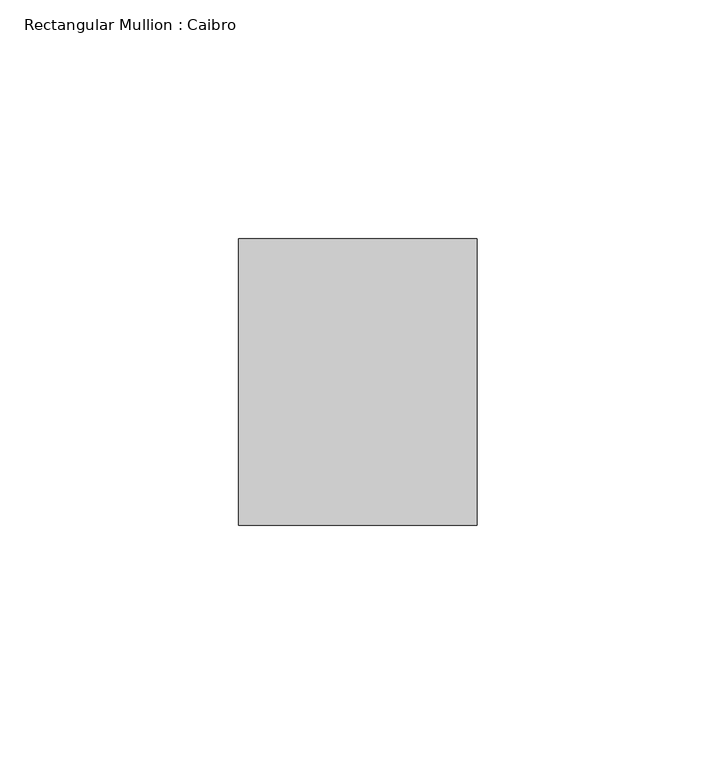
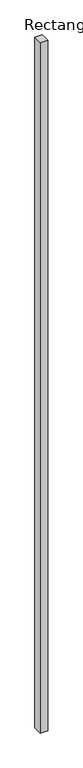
"""IFC4 building model written with IfcOpenShell, lengths in millimetres: member geometry, Rectangular Mullion : Caibro."""

import ifcopenshell
import ifcopenshell.guid

model = None  # the IFC model being written
_history = None  # IfcOwnerHistory: only IFC2X3 demands one
_inside = {}  # id of a spatial element -> (the spatial element, [elements in it])
_under = {}  # id of a project, library or spatial element -> (it, [spatial elements below it])
_declared = {}  # id of a project -> (the project, [libraries it declares])
_typed = {}  # id of a type object -> (the type object, [elements of that type])
_made_of = {}  # id of a material, layer set ... -> (it, [elements and type objects made of it])


def new_model(schema):
    """Start an empty IFC model of exactly this schema.

    Asked for "IFC4X3", IfcOpenShell would pick the latest addendum, in which some entities
    have other attributes; the version numbers below select the first issue.
    IFC2X3 requires an IfcOwnerHistory on every rooted entity: one is made here for all.
    """
    global model, _history
    if schema == "IFC4X3":
        model = ifcopenshell.file(schema_version=(4, 3, 0, 0))
    else:
        model = ifcopenshell.file(schema=schema)
    _inside.clear()
    _under.clear()
    _declared.clear()
    _typed.clear()
    _made_of.clear()
    _history = None
    if model.schema == "IFC2X3":
        org = make("IfcOrganization", Name="unknown")
        user = make(
            "IfcPersonAndOrganization",
            ThePerson=make("IfcPerson", FamilyName="unknown"),
            TheOrganization=org,
        )
        app = make(
            "IfcApplication",
            ApplicationDeveloper=org,
            Version="unknown",
            ApplicationFullName="unknown",
            ApplicationIdentifier="unknown",
        )
        _history = make(
            "IfcOwnerHistory",
            OwningUser=user,
            OwningApplication=app,
            ChangeAction="ADDED",
            CreationDate=0,
        )
    return model


def make(cls, **values):
    """One entity of the class cls with the attributes given. An attribute that is None is left unset."""
    return model.create_entity(
        cls, **{name: value for name, value in values.items() if value is not None}
    )


def rooted(cls, **values):
    """An entity with a GlobalId (a new one), such as an element, a storey or a relation."""
    return make(cls, GlobalId=ifcopenshell.guid.new(), OwnerHistory=_history, **values)


def si_unit(unit_type, name, prefix=None):
    """IfcSIUnit, for example si_unit("LENGTHUNIT", "METRE", prefix="MILLI")."""
    return make("IfcSIUnit", UnitType=unit_type, Prefix=prefix, Name=name)


def assignment(units):
    """IfcUnitAssignment: the units of a project."""
    return None if units is None else make("IfcUnitAssignment", Units=units)


def point(xyz):
    """IfcCartesianPoint."""
    return None if xyz is None else make("IfcCartesianPoint", Coordinates=xyz)


def direction(xyz):
    """IfcDirection."""
    return None if xyz is None else make("IfcDirection", DirectionRatios=xyz)


def frame(location, z_axis=None, x_axis=None):
    """IfcAxis2Placement3D, a coordinate frame: its origin and axes. An axis left out is left unset."""
    return make(
        "IfcAxis2Placement3D",
        Location=point(location),
        Axis=direction(z_axis),
        RefDirection=direction(x_axis),
    )


def origin():
    """The frame at (0, 0, 0) with its axes left unset."""
    return frame((0.0, 0.0, 0.0))


def place(relative_to, where):
    """IfcLocalPlacement: puts the frame where relative to a parent placement (None: the world)."""
    return make(
        "IfcLocalPlacement", PlacementRelTo=relative_to, RelativePlacement=where
    )


def context(
    kind, dimensions, precision=None, world=None, true_north=None, identifier=None
):
    """IfcGeometricRepresentationContext, for example the 3D "Model" context."""
    return make(
        "IfcGeometricRepresentationContext",
        ContextIdentifier=identifier,
        ContextType=kind,
        CoordinateSpaceDimension=dimensions,
        Precision=precision,
        WorldCoordinateSystem=world,
        TrueNorth=true_north,
    )


def project(units=None, contexts=None):
    """IfcProject with its units and contexts."""
    return rooted(
        "IfcProject",
        Name="project",
        RepresentationContexts=contexts,
        UnitsInContext=assignment(units),
    )


def spatial(cls, under=None, at=None, **own):
    """A site, building, storey or space (cls), placed at a placement, below another one or the project."""
    s = rooted(cls, ObjectPlacement=at, **own)
    if under is not None:
        _under.setdefault(under.id(), (under, []))[1].append(s)
    return s


def polyline(points):
    """IfcPolyline through the points."""
    return make("IfcPolyline", Points=[point(p) for p in points])


def outline(outer, holes=None, kind="AREA"):
    """IfcArbitraryClosedProfileDef: a profile drawn as a closed curve; with holes, ...WithVoids."""
    if holes is None:
        return make("IfcArbitraryClosedProfileDef", ProfileType=kind, OuterCurve=outer)
    return make(
        "IfcArbitraryProfileDefWithVoids",
        ProfileType=kind,
        OuterCurve=outer,
        InnerCurves=holes,
    )


def extrude(swept, where, along, depth):
    """IfcExtrudedAreaSolid: the profile swept, set in the frame where, extruded along a direction by depth."""
    return make(
        "IfcExtrudedAreaSolid",
        SweptArea=swept,
        Position=where,
        ExtrudedDirection=direction(along),
        Depth=depth,
    )


def shape(context_of_items, identifier, shape_type, items):
    """IfcShapeRepresentation: the items that make up one representation, for example the "Body"."""
    return make(
        "IfcShapeRepresentation",
        ContextOfItems=context_of_items,
        RepresentationIdentifier=identifier,
        RepresentationType=shape_type,
        Items=items,
    )


def source(mapping_origin, context_of_items, identifier, shape_type, items):
    """IfcRepresentationMap: a shape defined once, which mapped items show again and again."""
    return make(
        "IfcRepresentationMap",
        MappingOrigin=mapping_origin,
        MappedRepresentation=shape(context_of_items, identifier, shape_type, items),
    )


def transform(
    local_origin,
    x_axis=None,
    y_axis=None,
    z_axis=None,
    scale=None,
    scale2=None,
    scale3=None,
    uniform=True,
):
    """IfcCartesianTransformationOperator3D, or its non-uniform kind. x_axis, y_axis, z_axis: its Axis1, 2, 3."""
    if uniform:
        return make(
            "IfcCartesianTransformationOperator3D",
            Axis1=direction(x_axis),
            Axis2=direction(y_axis),
            LocalOrigin=point(local_origin),
            Scale=scale,
            Axis3=direction(z_axis),
        )
    return make(
        "IfcCartesianTransformationOperator3DnonUniform",
        Axis1=direction(x_axis),
        Axis2=direction(y_axis),
        LocalOrigin=point(local_origin),
        Scale=scale,
        Axis3=direction(z_axis),
        Scale2=scale2,
        Scale3=scale3,
    )


def mapped(mapping_source, mapping_target):
    """IfcMappedItem: shows the shape of a source again, moved by a transform."""
    return make(
        "IfcMappedItem", MappingSource=mapping_source, MappingTarget=mapping_target
    )


def made_of(thing, what):
    """Note that an element or type object is made of a material, layer set ...; save() writes the relation."""
    if what is not None:
        _made_of.setdefault(what.id(), (what, []))[1].append(thing)
    return thing


def element(
    cls,
    number,
    at=None,
    inside=None,
    cuts=None,
    type_object=None,
    material=None,
    context=None,
    identifier="Body",
    shape_type=None,
    held_by="IfcProductDefinitionShape",
    body=None,
    shapes=None,
    **own,
):
    """One element of the class cls, such as IfcWall. Its Tag is "e" and its number.

    at: its placement. inside: the storey or other place that contains it. cuts: it is an
    opening in that element (IfcRelVoidsElement). A single representation is given by context,
    identifier, shape_type and body (its items); several are given by shapes. held_by: the class
    of the entity that holds the representations. save() writes the other relations.
    """
    e = rooted(cls, Tag="e%d" % number, ObjectPlacement=at, **own)
    if body is not None:
        shapes = [shape(context, identifier, shape_type, body)]
    if shapes is not None:
        e.Representation = make(held_by, Representations=shapes)
    if inside is not None:
        _inside.setdefault(inside.id(), (inside, []))[1].append(e)
    if cuts is not None:
        rooted(
            "IfcRelVoidsElement", RelatingBuildingElement=cuts, RelatedOpeningElement=e
        )
    if type_object is not None:
        _typed.setdefault(type_object.id(), (type_object, []))[1].append(e)
    return made_of(e, material)


def aggregate(whole, parts):
    """IfcRelAggregates: a whole, such as a stair, and the parts it consists of."""
    return rooted("IfcRelAggregates", RelatingObject=whole, RelatedObjects=parts)


def save(model, path):
    """Write the relations noted so far, then the file.

    IfcRelAggregates (storeys below a building ...), IfcRelContainedInSpatialStructure (elements
    in a storey), IfcRelDefinesByType, IfcRelAssociatesMaterial and IfcRelDeclares: one each for
    every whole, place, type object, material and project.
    """
    for whole, parts in _under.values():
        aggregate(whole, parts)
    for where, things in _inside.values():
        rooted(
            "IfcRelContainedInSpatialStructure",
            RelatedElements=things,
            RelatingStructure=where,
        )
    for kind, things in _typed.values():
        rooted("IfcRelDefinesByType", RelatedObjects=things, RelatingType=kind)
    for what, things in _made_of.values():
        rooted("IfcRelAssociatesMaterial", RelatedObjects=things, RelatingMaterial=what)
    for by, libraries in _declared.values():
        rooted("IfcRelDeclares", RelatingContext=by, RelatedDefinitions=libraries)
    model.write(path)


def rectangular_mullion_caibro_cfc8c254(model_context):
    return source(origin(), model_context, "Body", "SweptSolid", [
        extrude(outline(polyline([(-25.0, -60.0), (-25.0, 0.0), (25.0, 0.0), (25.0, -60.0), (-25.0, -60.0)])), frame((0.0, 0.0, -4833.5469271), z_axis=(0.0, 0.0, 1.0), x_axis=(1.0, 0.0, 0.0)), (0.0, 0.0, 1.0), 4833.5469271),
    ])


if __name__ == "__main__":
    model = new_model("IFC4")
    model_context = context("Model", 3, world=origin())
    ifc_project = project(units=[si_unit("LENGTHUNIT", "METRE", prefix="MILLI")], contexts=[model_context])
    site = spatial("IfcSite", under=ifc_project)
    building = spatial("IfcBuilding", under=site)
    placement = place(None, origin())
    rectangular_mullion_caibro_shape = rectangular_mullion_caibro_cfc8c254(model_context)
    element("IfcMember", 1, ObjectType="Rectangular Mullion : Caibro", at=placement, inside=building, context=model_context, shape_type="MappedRepresentation", body=[
        mapped(rectangular_mullion_caibro_shape, transform((0.0, 0.0, 0.0), x_axis=(1.0, 0.0, 0.0), y_axis=(0.0, 1.0, 0.0), z_axis=(0.0, 0.0, 1.0))),
    ])
    save(model, "model.ifc")
